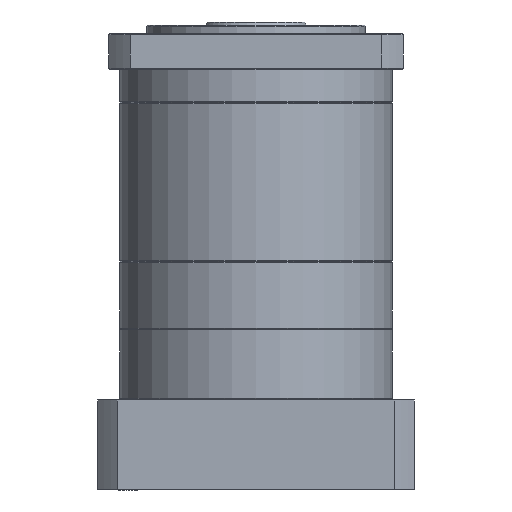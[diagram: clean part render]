
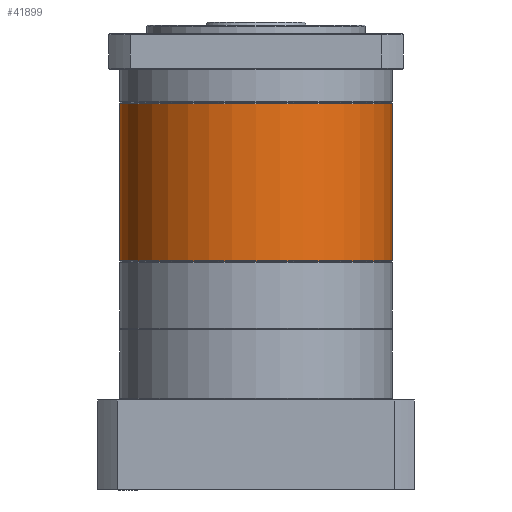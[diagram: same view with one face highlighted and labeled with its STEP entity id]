
A CAD part, front view. The second image highlights one B-rep face of the part: STEP entity #41899.
In plain terms, the highlighted cylindrical face has radius 81 mm (diameter 162 mm), a partial arc.
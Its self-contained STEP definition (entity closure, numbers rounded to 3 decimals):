
#1654 = EDGE_CURVE ( 'NONE', #20265, #49406, #19897, .T. ) ;
#3756 = AXIS2_PLACEMENT_3D ( 'NONE', #34648, #11763, #69991 ) ;
#7621 = AXIS2_PLACEMENT_3D ( 'NONE', #14359, #87078, #57755 ) ;
#9933 = DIRECTION ( 'NONE',  ( 0., 0., 1. ) ) ;
#10565 = DIRECTION ( 'NONE',  ( 1., 0., 0. ) ) ;
#11763 = DIRECTION ( 'NONE',  ( 0., 0., 1. ) ) ;
#14359 = CARTESIAN_POINT ( 'NONE',  ( 167.887, 106.757, 207.725 ) ) ;
#15899 = ORIENTED_EDGE ( 'NONE', *, *, #36490, .T. ) ;
#16426 = VERTEX_POINT ( 'NONE', #87778 ) ;
#16777 = VECTOR ( 'NONE', #66080, 1000. ) ;
#19897 = CIRCLE ( 'NONE', #82237, 81. ) ;
#20265 = VERTEX_POINT ( 'NONE', #83415 ) ;
#25700 = VERTEX_POINT ( 'NONE', #66500 ) ;
#25760 = LINE ( 'NONE', #80959, #16777 ) ;
#26070 = CARTESIAN_POINT ( 'NONE',  ( 248.887, 106.757, 114.225 ) ) ;
#34648 = CARTESIAN_POINT ( 'NONE',  ( 167.887, 106.757, 113.725 ) ) ;
#36490 = EDGE_CURVE ( 'NONE', #16426, #25700, #76215, .T. ) ;
#38922 = ORIENTED_EDGE ( 'NONE', *, *, #53208, .F. ) ;
#41899 = ADVANCED_FACE ( 'NONE', ( #59851 ), #44038, .T. ) ;
#44038 = CYLINDRICAL_SURFACE ( 'NONE', #3756, 81. ) ;
#44315 = DIRECTION ( 'NONE',  ( 0., 0., 1. ) ) ;
#49406 = VERTEX_POINT ( 'NONE', #26070 ) ;
#50622 = ORIENTED_EDGE ( 'NONE', *, *, #80508, .T. ) ;
#51650 = VECTOR ( 'NONE', #44315, 1000. ) ;
#53208 = EDGE_CURVE ( 'NONE', #20265, #25700, #53952, .T. ) ;
#53952 = LINE ( 'NONE', #65400, #51650 ) ;
#57755 = DIRECTION ( 'NONE',  ( 1., 0., 0. ) ) ;
#59851 = FACE_OUTER_BOUND ( 'NONE', #65888, .T. ) ;
#65400 = CARTESIAN_POINT ( 'NONE',  ( 86.887, 106.757, 113.725 ) ) ;
#65888 = EDGE_LOOP ( 'NONE', ( #38922, #74953, #50622, #15899 ) ) ;
#66080 = DIRECTION ( 'NONE',  ( 0., 0., 1. ) ) ;
#66500 = CARTESIAN_POINT ( 'NONE',  ( 86.887, 106.757, 207.725 ) ) ;
#69991 = DIRECTION ( 'NONE',  ( 1., 0., 0. ) ) ;
#74953 = ORIENTED_EDGE ( 'NONE', *, *, #1654, .T. ) ;
#76215 = CIRCLE ( 'NONE', #7621, 81. ) ;
#80508 = EDGE_CURVE ( 'NONE', #49406, #16426, #25760, .T. ) ;
#80959 = CARTESIAN_POINT ( 'NONE',  ( 248.887, 106.757, 113.725 ) ) ;
#82237 = AXIS2_PLACEMENT_3D ( 'NONE', #88367, #9933, #10565 ) ;
#83415 = CARTESIAN_POINT ( 'NONE',  ( 86.887, 106.757, 114.225 ) ) ;
#87078 = DIRECTION ( 'NONE',  ( 0., 0., -1. ) ) ;
#87778 = CARTESIAN_POINT ( 'NONE',  ( 248.887, 106.757, 207.725 ) ) ;
#88367 = CARTESIAN_POINT ( 'NONE',  ( 167.887, 106.757, 114.225 ) ) ;
